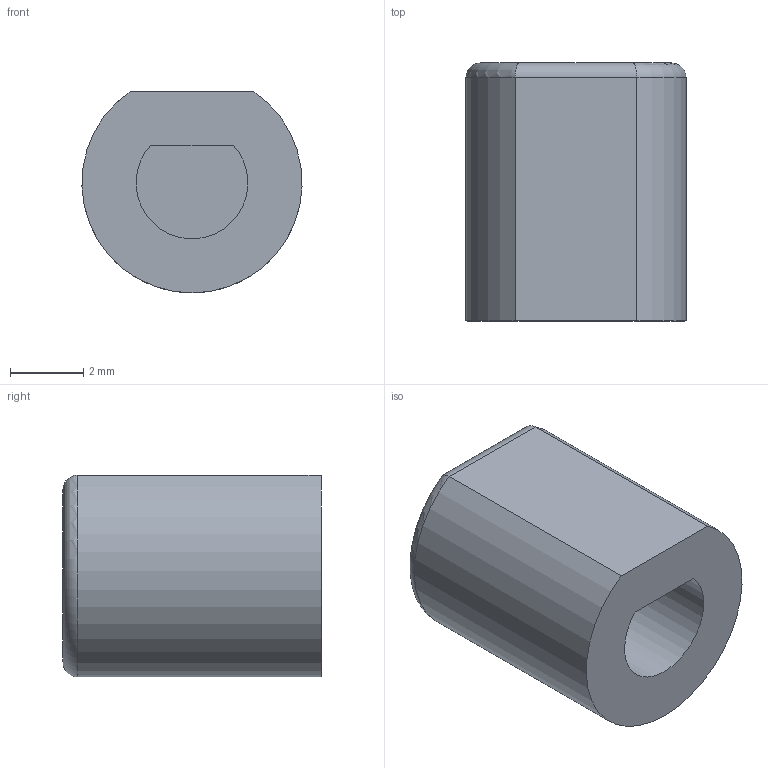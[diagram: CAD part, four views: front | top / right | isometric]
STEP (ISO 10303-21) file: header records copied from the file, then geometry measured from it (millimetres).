
FILE_DESCRIPTION(('Open CASCADE Model'),'2;1');
FILE_NAME('Open CASCADE Shape Model','2026-11-11T07:15:18',('Author'),( 'Open CASCADE'),'Open CASCADE STEP processor 8.0','build123d', 'Unknown');
FILE_SCHEMA(('AUTOMOTIVE_DESIGN { 1 0 10303 214 1 1 1 1 }'));
Length unit declared in the file: millimetre
Products named in the file (1): COMPOUND
Bounding box: 6 x 7.03 x 5.5 mm (x, y, z)
Volume: 152.5 mm3; surface area: 235.9 mm2
Topology: 1 solids, 1 shells, 9 faces, 16 edges, 10 vertices
Faces by surface type: plane 5, cylinder 3, torus 1
Entity records: 480 total; most frequent: CARTESIAN_POINT 154, DIRECTION 52, ORIENTED_EDGE 32, PCURVE 32, DEFINITIONAL_REPRESENTATION 32, B_SPLINE_CURVE_WITH_KNOTS 20, LINE 19, VECTOR 19
